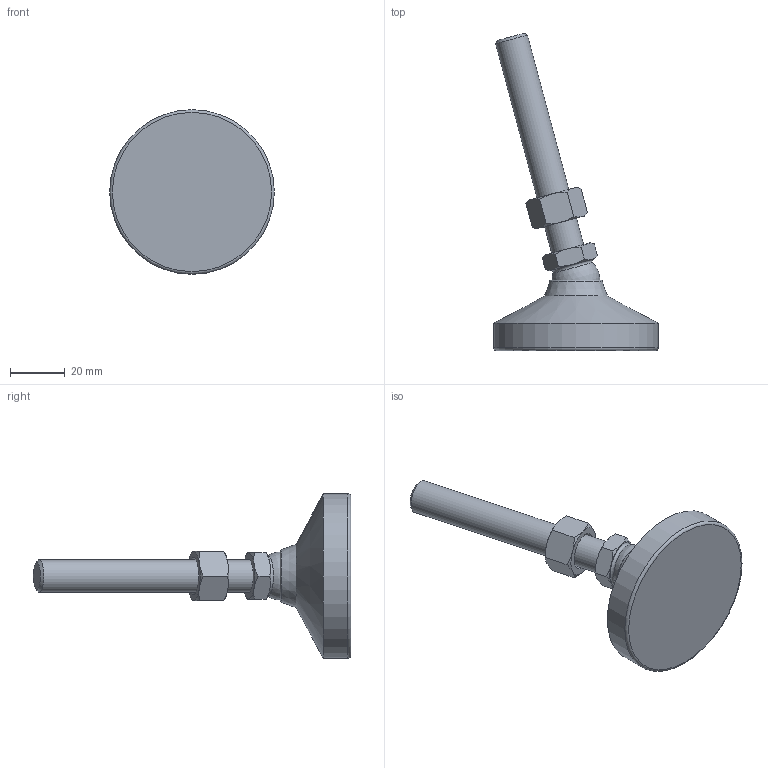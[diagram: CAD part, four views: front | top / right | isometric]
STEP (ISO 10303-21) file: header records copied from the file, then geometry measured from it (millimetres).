
FILE_DESCRIPTION( ( 'STEP AP214' ), ' ' );
FILE_NAME( 'O:/ganter_2015/teil_2/2_5/gn343_2/gn343_2_kse/Levelling foot with threaded stud GN 343.2-60-M12-80-KSE-(15).stp', '2015-10-26T09:17:05', ( '' ), ( '' ), ' ', 'PARTsolutions', ' ' );
FILE_SCHEMA( ( 'AUTOMOTIVE_DESIGN { 1 0 10303 214 1 1 1 1 }' ) );
Length unit declared in the file: millimetre
Products named in the file (4): Levelling foot with threaded stud GN 343.2-60-M12-80-KSE-(15); _Levelling foot with threaded stud GN 343.2-60-M12-80-KSE-(15)_foot; _Levelling foot with threaded stud GN 343.2-60-M12-80-KSE-(15)_screw; _Levelling foot with threaded stud GN 343.2-60-M12-80-KSE-(15)_nut
Assembly tree (3 placements, depth 2):
  Levelling foot with threaded stud GN 343.2-60-M12-80-KSE-(15)
    _Levelling foot with threaded stud GN 343.2-60-M12-80-KSE-(15)_foot
    _Levelling foot with threaded stud GN 343.2-60-M12-80-KSE-(15)_screw
    _Levelling foot with threaded stud GN 343.2-60-M12-80-KSE-(15)_nut
Bounding box: 60 x 115.67 x 60 mm (x, y, z)
Volume: 58346.6 mm3; surface area: 14058.8 mm2
Topology: 3 solids, 3 shells, 56 faces, 117 edges, 68 vertices
Faces by surface type: cone 29, plane 19, torus 3, cylinder 3, sphere 2
Full cylindrical faces by diameter (mm): 10.106 x1, 12 x1, 60 x1
Entity records: 2066 total; most frequent: CARTESIAN_POINT 498, DIRECTION 212, ORIENTED_EDGE 200, AXIS2_PLACEMENT_3D 100, EDGE_CURVE 100, EDGE_LOOP 72, VERTEX_POINT 66, FACE_OUTER_BOUND 62
